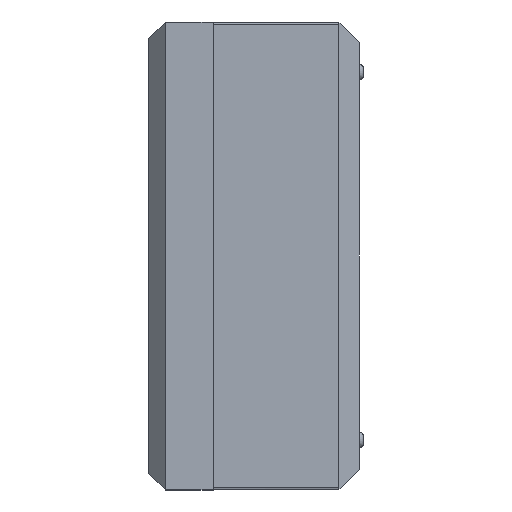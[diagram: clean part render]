
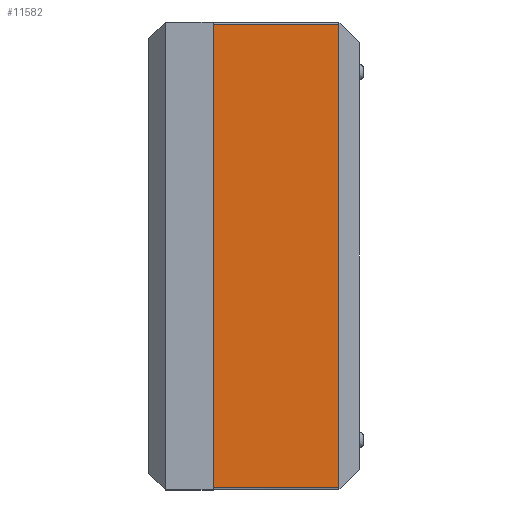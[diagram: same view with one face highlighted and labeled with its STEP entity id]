
A CAD part, left-side view. The second image highlights one B-rep face of the part: STEP entity #11582.
In plain terms, the highlighted planar face has unit normal (-1, 0, 0).
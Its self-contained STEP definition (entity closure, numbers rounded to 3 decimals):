
#244 = FACE_OUTER_BOUND ( 'NONE', #4571, .T. ) ;
#302 = PLANE ( 'NONE',  #15253 ) ;
#490 = LINE ( 'NONE', #10101, #7103 ) ;
#1603 = DIRECTION ( 'NONE',  ( 0., 0., 1. ) ) ;
#1655 = CARTESIAN_POINT ( 'NONE',  ( -100., 0., 55.6 ) ) ;
#1761 = ORIENTED_EDGE ( 'NONE', *, *, #5484, .T. ) ;
#2104 = VERTEX_POINT ( 'NONE', #7027 ) ;
#2899 = LINE ( 'NONE', #12927, #16551 ) ;
#3341 = ORIENTED_EDGE ( 'NONE', *, *, #14646, .T. ) ;
#3501 = DIRECTION ( 'NONE',  ( 0., 1., 0. ) ) ;
#3974 = VECTOR ( 'NONE', #11090, 1000. ) ;
#4371 = EDGE_CURVE ( 'NONE', #2104, #13471, #6307, .T. ) ;
#4571 = EDGE_LOOP ( 'NONE', ( #6848, #14007, #3341, #1761 ) ) ;
#5160 = DIRECTION ( 'NONE',  ( 0., -1., 0. ) ) ;
#5484 = EDGE_CURVE ( 'NONE', #12644, #9551, #490, .T. ) ;
#6307 = LINE ( 'NONE', #13133, #12951 ) ;
#6848 = ORIENTED_EDGE ( 'NONE', *, *, #7379, .F. ) ;
#6875 = CARTESIAN_POINT ( 'NONE',  ( -100., -35., -56.1 ) ) ;
#6942 = CARTESIAN_POINT ( 'NONE',  ( -100., -30., -55.6 ) ) ;
#7027 = CARTESIAN_POINT ( 'NONE',  ( -100., 0., -55.6 ) ) ;
#7103 = VECTOR ( 'NONE', #3501, 1000. ) ;
#7379 = EDGE_CURVE ( 'NONE', #2104, #9551, #2899, .T. ) ;
#8960 = DIRECTION ( 'NONE',  ( 0., 0., 1. ) ) ;
#9551 = VERTEX_POINT ( 'NONE', #1655 ) ;
#9735 = CARTESIAN_POINT ( 'NONE',  ( -100., -30., 56.1 ) ) ;
#10101 = CARTESIAN_POINT ( 'NONE',  ( -100., -35., 55.6 ) ) ;
#10380 = CARTESIAN_POINT ( 'NONE',  ( -100., -30., 55.6 ) ) ;
#11090 = DIRECTION ( 'NONE',  ( 0., 0., 1. ) ) ;
#11582 = ADVANCED_FACE ( 'NONE', ( #244 ), #302, .T. ) ;
#12644 = VERTEX_POINT ( 'NONE', #10380 ) ;
#12927 = CARTESIAN_POINT ( 'NONE',  ( -100., 0., -56.1 ) ) ;
#12951 = VECTOR ( 'NONE', #5160, 1000. ) ;
#13133 = CARTESIAN_POINT ( 'NONE',  ( -100., -35., -55.6 ) ) ;
#13471 = VERTEX_POINT ( 'NONE', #6942 ) ;
#14007 = ORIENTED_EDGE ( 'NONE', *, *, #4371, .T. ) ;
#14551 = LINE ( 'NONE', #9735, #3974 ) ;
#14646 = EDGE_CURVE ( 'NONE', #13471, #12644, #14551, .T. ) ;
#14805 = DIRECTION ( 'NONE',  ( -1., 0., 0. ) ) ;
#15253 = AXIS2_PLACEMENT_3D ( 'NONE', #6875, #14805, #1603 ) ;
#16551 = VECTOR ( 'NONE', #8960, 1000. ) ;
